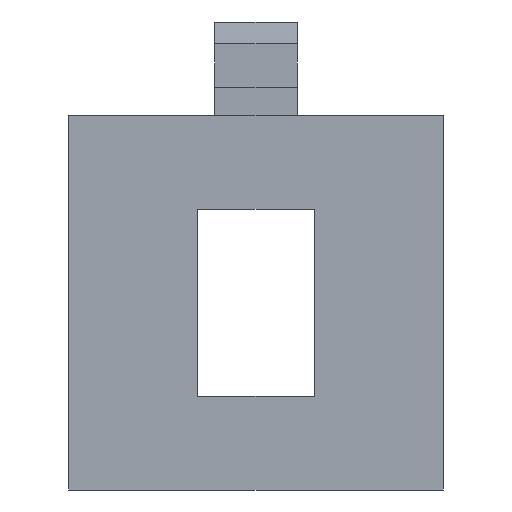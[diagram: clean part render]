
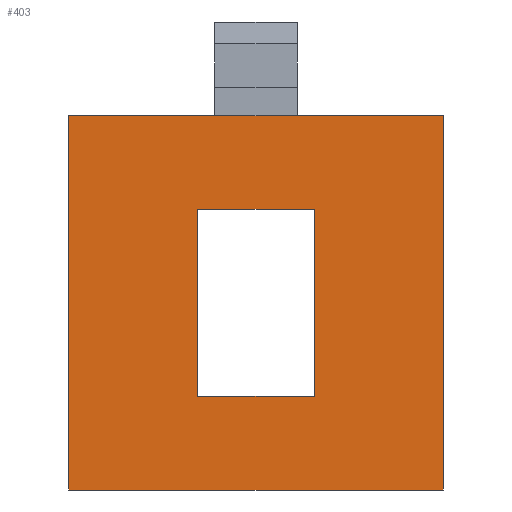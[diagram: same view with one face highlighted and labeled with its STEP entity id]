
A CAD part, front view. The second image highlights one B-rep face of the part: STEP entity #403.
In plain terms, the highlighted planar face has unit normal (0, -1, 0).
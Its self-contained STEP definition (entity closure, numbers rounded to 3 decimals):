
#72=ORIENTED_EDGE('',*,*,#164,.T.);
#73=ORIENTED_EDGE('',*,*,#166,.T.);
#74=ORIENTED_EDGE('',*,*,#167,.T.);
#75=ORIENTED_EDGE('',*,*,#159,.T.);
#76=ORIENTED_EDGE('',*,*,#168,.F.);
#77=ORIENTED_EDGE('',*,*,#169,.F.);
#78=ORIENTED_EDGE('',*,*,#170,.F.);
#79=ORIENTED_EDGE('',*,*,#171,.F.);
#159=EDGE_CURVE('',#211,#210,#249,.T.);
#164=EDGE_CURVE('',#210,#212,#254,.T.);
#166=EDGE_CURVE('',#212,#213,#256,.T.);
#167=EDGE_CURVE('',#213,#211,#257,.T.);
#168=EDGE_CURVE('',#214,#215,#258,.T.);
#169=EDGE_CURVE('',#216,#214,#259,.T.);
#170=EDGE_CURVE('',#217,#216,#260,.T.);
#171=EDGE_CURVE('',#215,#217,#261,.T.);
#210=VERTEX_POINT('',#613);
#211=VERTEX_POINT('',#615);
#212=VERTEX_POINT('',#621);
#213=VERTEX_POINT('',#625);
#214=VERTEX_POINT('',#631);
#215=VERTEX_POINT('',#632);
#216=VERTEX_POINT('',#634);
#217=VERTEX_POINT('',#636);
#249=LINE('',#614,#303);
#254=LINE('',#622,#308);
#256=LINE('',#626,#310);
#257=LINE('',#628,#311);
#258=LINE('',#630,#312);
#259=LINE('',#633,#313);
#260=LINE('',#635,#314);
#261=LINE('',#637,#315);
#303=VECTOR('',#493,1000.);
#308=VECTOR('',#500,1000.);
#310=VECTOR('',#504,1000.);
#311=VECTOR('',#507,1000.);
#312=VECTOR('',#510,1000.);
#313=VECTOR('',#511,1000.);
#314=VECTOR('',#512,1000.);
#315=VECTOR('',#513,1000.);
#336=EDGE_LOOP('',(#72,#73,#74,#75));
#337=EDGE_LOOP('',(#76,#77,#78,#79));
#360=FACE_BOUND('',#336,.T.);
#361=FACE_BOUND('',#337,.T.);
#382=PLANE('',#437);
#403=ADVANCED_FACE('',(#360,#361),#382,.T.);
#437=AXIS2_PLACEMENT_3D('',#629,#508,#509);
#493=DIRECTION('',(0.,0.,1.));
#500=DIRECTION('',(-1.,0.,0.));
#504=DIRECTION('',(0.,0.,-1.));
#507=DIRECTION('',(1.,0.,0.));
#508=DIRECTION('',(0.,-1.,0.));
#509=DIRECTION('',(0.,0.,-1.));
#510=DIRECTION('',(-1.,0.,0.));
#511=DIRECTION('',(0.,0.,1.));
#512=DIRECTION('',(1.,0.,0.));
#513=DIRECTION('',(0.,0.,-1.));
#613=CARTESIAN_POINT('',(10.,-6.,10.));
#614=CARTESIAN_POINT('',(10.,-6.,-10.));
#615=CARTESIAN_POINT('',(10.,-6.,-10.));
#621=CARTESIAN_POINT('',(-10.,-6.,10.));
#622=CARTESIAN_POINT('',(10.,-6.,10.));
#625=CARTESIAN_POINT('',(-10.,-6.,-10.));
#626=CARTESIAN_POINT('',(-10.,-6.,10.));
#628=CARTESIAN_POINT('',(-10.,-6.,-10.));
#629=CARTESIAN_POINT('',(0.,-6.,0.));
#630=CARTESIAN_POINT('',(3.1,-6.,5.));
#631=CARTESIAN_POINT('',(3.1,-6.,5.));
#632=CARTESIAN_POINT('',(-3.1,-6.,5.));
#633=CARTESIAN_POINT('',(3.1,-6.,-5.));
#634=CARTESIAN_POINT('',(3.1,-6.,-5.));
#635=CARTESIAN_POINT('',(-3.1,-6.,-5.));
#636=CARTESIAN_POINT('',(-3.1,-6.,-5.));
#637=CARTESIAN_POINT('',(-3.1,-6.,5.));
